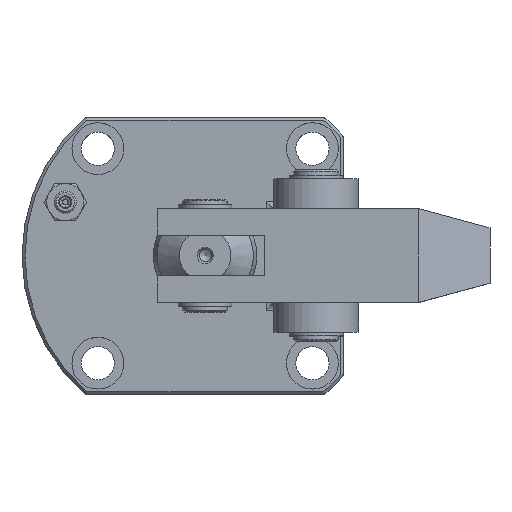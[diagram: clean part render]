
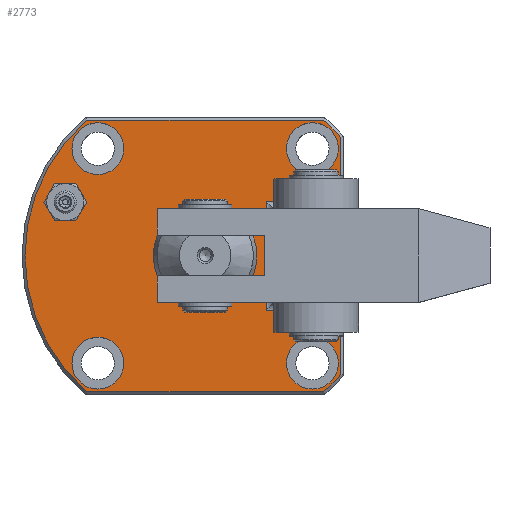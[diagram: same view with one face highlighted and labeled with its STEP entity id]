
A CAD part, top view. The second image highlights one B-rep face of the part: STEP entity #2773.
In plain terms, the highlighted planar face has unit normal (0, 0, 1).
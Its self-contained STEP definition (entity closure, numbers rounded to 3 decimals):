
#189=PLANE('',#3061);
#266=CIRCLE('',#3034,5.);
#275=CIRCLE('',#3060,14.);
#276=CIRCLE('',#3062,48.7);
#277=CIRCLE('',#3063,48.7);
#278=CIRCLE('',#3064,48.7);
#279=CIRCLE('',#3065,7.);
#280=CIRCLE('',#3066,7.);
#281=CIRCLE('',#3067,7.);
#282=CIRCLE('',#3068,7.);
#441=LINE('',#4646,#579);
#473=LINE('',#4740,#611);
#474=LINE('',#4743,#612);
#475=LINE('',#4745,#613);
#476=LINE('',#4747,#614);
#477=LINE('',#4750,#615);
#478=LINE('',#4754,#616);
#579=VECTOR('',#3441,1000.);
#611=VECTOR('',#3523,1000.);
#612=VECTOR('',#3524,1000.);
#613=VECTOR('',#3525,1000.);
#614=VECTOR('',#3526,1000.);
#615=VECTOR('',#3529,1000.);
#616=VECTOR('',#3532,1000.);
#915=ORIENTED_EDGE('',*,*,#1538,.T.);
#916=ORIENTED_EDGE('',*,*,#1539,.T.);
#917=ORIENTED_EDGE('',*,*,#1540,.T.);
#918=ORIENTED_EDGE('',*,*,#1541,.T.);
#919=ORIENTED_EDGE('',*,*,#1496,.T.);
#920=ORIENTED_EDGE('',*,*,#1542,.T.);
#921=ORIENTED_EDGE('',*,*,#1543,.T.);
#922=ORIENTED_EDGE('',*,*,#1544,.T.);
#923=ORIENTED_EDGE('',*,*,#1545,.T.);
#924=ORIENTED_EDGE('',*,*,#1546,.T.);
#925=ORIENTED_EDGE('',*,*,#1495,.F.);
#926=ORIENTED_EDGE('',*,*,#1537,.T.);
#927=ORIENTED_EDGE('',*,*,#1547,.F.);
#928=ORIENTED_EDGE('',*,*,#1548,.F.);
#929=ORIENTED_EDGE('',*,*,#1549,.F.);
#930=ORIENTED_EDGE('',*,*,#1550,.F.);
#1495=EDGE_CURVE('',#1829,#1829,#266,.T.);
#1496=EDGE_CURVE('',#1830,#1831,#441,.T.);
#1537=EDGE_CURVE('',#1862,#1862,#275,.T.);
#1538=EDGE_CURVE('',#1863,#1864,#473,.T.);
#1539=EDGE_CURVE('',#1864,#1865,#474,.F.);
#1540=EDGE_CURVE('',#1865,#1866,#475,.F.);
#1541=EDGE_CURVE('',#1866,#1830,#476,.F.);
#1542=EDGE_CURVE('',#1831,#1867,#276,.T.);
#1543=EDGE_CURVE('',#1867,#1868,#477,.T.);
#1544=EDGE_CURVE('',#1868,#1869,#277,.T.);
#1545=EDGE_CURVE('',#1869,#1870,#478,.T.);
#1546=EDGE_CURVE('',#1870,#1863,#278,.T.);
#1547=EDGE_CURVE('',#1871,#1871,#279,.T.);
#1548=EDGE_CURVE('',#1872,#1872,#280,.T.);
#1549=EDGE_CURVE('',#1873,#1873,#281,.T.);
#1550=EDGE_CURVE('',#1874,#1874,#282,.T.);
#1829=VERTEX_POINT('',#4635);
#1830=VERTEX_POINT('',#4647);
#1831=VERTEX_POINT('',#4648);
#1862=VERTEX_POINT('',#4738);
#1863=VERTEX_POINT('',#4741);
#1864=VERTEX_POINT('',#4742);
#1865=VERTEX_POINT('',#4744);
#1866=VERTEX_POINT('',#4746);
#1867=VERTEX_POINT('',#4749);
#1868=VERTEX_POINT('',#4751);
#1869=VERTEX_POINT('',#4753);
#1870=VERTEX_POINT('',#4755);
#1871=VERTEX_POINT('',#4758);
#1872=VERTEX_POINT('',#4760);
#1873=VERTEX_POINT('',#4762);
#1874=VERTEX_POINT('',#4764);
#2113=EDGE_LOOP('',(#915,#916,#917,#918,#919,#920,#921,#922,#923,#924));
#2114=EDGE_LOOP('',(#925));
#2115=EDGE_LOOP('',(#926));
#2116=EDGE_LOOP('',(#927));
#2117=EDGE_LOOP('',(#928));
#2118=EDGE_LOOP('',(#929));
#2119=EDGE_LOOP('',(#930));
#2417=FACE_BOUND('',#2113,.T.);
#2418=FACE_BOUND('',#2114,.T.);
#2419=FACE_BOUND('',#2115,.T.);
#2420=FACE_BOUND('',#2116,.T.);
#2421=FACE_BOUND('',#2117,.T.);
#2422=FACE_BOUND('',#2118,.T.);
#2423=FACE_BOUND('',#2119,.T.);
#2773=ADVANCED_FACE('',(#2417,#2418,#2419,#2420,#2421,#2422,#2423),#189,
 .T.);
#3034=AXIS2_PLACEMENT_3D('',#4634,#3435,#3436);
#3060=AXIS2_PLACEMENT_3D('',#4737,#3519,#3520);
#3061=AXIS2_PLACEMENT_3D('',#4739,#3521,#3522);
#3062=AXIS2_PLACEMENT_3D('',#4748,#3527,#3528);
#3063=AXIS2_PLACEMENT_3D('',#4752,#3530,#3531);
#3064=AXIS2_PLACEMENT_3D('',#4756,#3533,#3534);
#3065=AXIS2_PLACEMENT_3D('',#4757,#3535,#3536);
#3066=AXIS2_PLACEMENT_3D('',#4759,#3537,#3538);
#3067=AXIS2_PLACEMENT_3D('',#4761,#3539,#3540);
#3068=AXIS2_PLACEMENT_3D('',#4763,#3541,#3542);
#3435=DIRECTION('',(0.,0.,1.));
#3436=DIRECTION('',(0.,-1.,0.));
#3441=DIRECTION('',(0.,1.,0.));
#3519=DIRECTION('',(0.,0.,-1.));
#3520=DIRECTION('',(0.,-1.,0.));
#3521=DIRECTION('',(0.,0.,1.));
#3522=DIRECTION('',(0.,-1.,0.));
#3523=DIRECTION('',(0.,1.,0.));
#3524=DIRECTION('',(1.,0.,0.));
#3525=DIRECTION('',(0.,-1.,0.));
#3526=DIRECTION('',(-1.,0.,0.));
#3527=DIRECTION('',(0.,0.,1.));
#3528=DIRECTION('',(0.,-1.,0.));
#3529=DIRECTION('',(-1.,0.,0.));
#3530=DIRECTION('',(0.,0.,1.));
#3531=DIRECTION('',(0.,-1.,0.));
#3532=DIRECTION('',(1.,0.,0.));
#3533=DIRECTION('',(0.,0.,1.));
#3534=DIRECTION('',(0.,-1.,0.));
#3535=DIRECTION('',(0.,0.,1.));
#3536=DIRECTION('',(1.,0.,0.));
#3537=DIRECTION('',(0.,0.,1.));
#3538=DIRECTION('',(1.,0.,0.));
#3539=DIRECTION('',(0.,0.,1.));
#3540=DIRECTION('',(1.,0.,0.));
#3541=DIRECTION('',(0.,0.,1.));
#3542=DIRECTION('',(1.,0.,0.));
#4634=CARTESIAN_POINT('',(-51.55,54.04,18.799));
#4635=CARTESIAN_POINT('',(-51.55,49.04,18.799));
#4646=CARTESIAN_POINT('',(22.95,39.5,18.799));
#4647=CARTESIAN_POINT('',(22.95,54.2,18.799));
#4648=CARTESIAN_POINT('',(22.95,71.512,18.799));
#4737=CARTESIAN_POINT('',(-13.75,39.5,18.799));
#4738=CARTESIAN_POINT('',(-13.75,25.5,18.799));
#4739=CARTESIAN_POINT('',(-13.75,39.5,18.799));
#4740=CARTESIAN_POINT('',(22.95,39.5,18.799));
#4741=CARTESIAN_POINT('',(22.95,7.488,18.799));
#4742=CARTESIAN_POINT('',(22.95,24.8,18.799));
#4743=CARTESIAN_POINT('',(4.75,24.8,18.799));
#4744=CARTESIAN_POINT('',(2.75,24.8,18.799));
#4745=CARTESIAN_POINT('',(2.75,39.5,18.799));
#4746=CARTESIAN_POINT('',(2.75,54.2,18.799));
#4747=CARTESIAN_POINT('',(-13.75,54.2,18.799));
#4748=CARTESIAN_POINT('',(-13.75,39.5,18.799));
#4749=CARTESIAN_POINT('',(18.262,76.2,18.799));
#4750=CARTESIAN_POINT('',(-13.75,76.2,18.799));
#4751=CARTESIAN_POINT('',(-45.762,76.2,18.799));
#4752=CARTESIAN_POINT('',(-13.75,39.5,18.799));
#4753=CARTESIAN_POINT('',(-45.762,2.8,18.799));
#4754=CARTESIAN_POINT('',(-13.75,2.8,18.799));
#4755=CARTESIAN_POINT('',(18.262,2.8,18.799));
#4756=CARTESIAN_POINT('',(-13.75,39.5,18.799));
#4757=CARTESIAN_POINT('',(-42.75,10.5,18.799));
#4758=CARTESIAN_POINT('',(-35.75,10.5,18.799));
#4759=CARTESIAN_POINT('',(15.25,10.5,18.799));
#4760=CARTESIAN_POINT('',(22.25,10.5,18.799));
#4761=CARTESIAN_POINT('',(-42.75,68.5,18.799));
#4762=CARTESIAN_POINT('',(-35.75,68.5,18.799));
#4763=CARTESIAN_POINT('',(15.25,68.5,18.799));
#4764=CARTESIAN_POINT('',(22.25,68.5,18.799));
